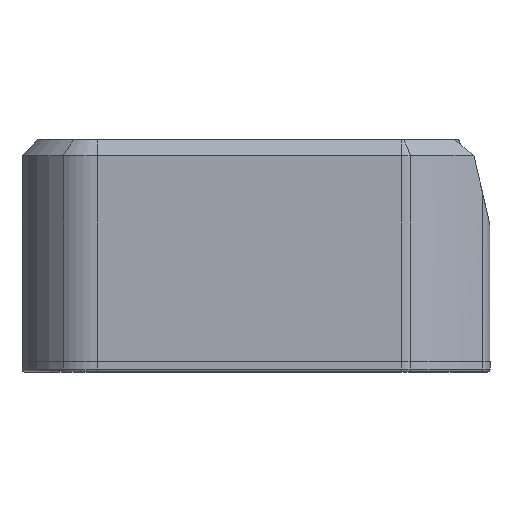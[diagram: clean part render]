
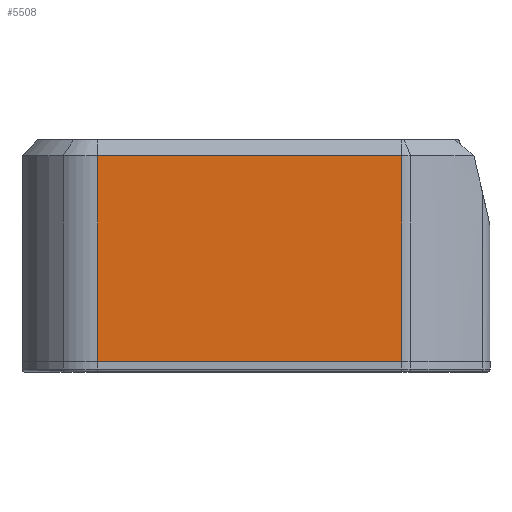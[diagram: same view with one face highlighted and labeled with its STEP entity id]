
A CAD part, left-side view. The second image highlights one B-rep face of the part: STEP entity #5508.
In plain terms, the highlighted planar face has unit normal (-1, 0, 0).
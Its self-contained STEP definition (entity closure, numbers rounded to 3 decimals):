
#1070=ORIENTED_EDGE('',*,*,#2173,.T.);
#1071=ORIENTED_EDGE('',*,*,#2112,.T.);
#1072=ORIENTED_EDGE('',*,*,#2138,.T.);
#1073=ORIENTED_EDGE('',*,*,#2206,.F.);
#2112=EDGE_CURVE('',#2882,#2874,#3527,.T.);
#2138=EDGE_CURVE('',#2874,#2899,#3541,.T.);
#2173=EDGE_CURVE('',#2928,#2882,#3571,.T.);
#2206=EDGE_CURVE('',#2928,#2899,#3600,.T.);
#2874=VERTEX_POINT('',#8610);
#2882=VERTEX_POINT('',#8628);
#2899=VERTEX_POINT('',#8684);
#2928=VERTEX_POINT('',#8758);
#3527=LINE('',#8632,#4159);
#3541=LINE('',#8683,#4173);
#3571=LINE('',#8757,#4203);
#3600=LINE('',#8824,#4232);
#4159=VECTOR('',#6957,1000.);
#4173=VECTOR('',#7013,1000.);
#4203=VECTOR('',#7073,1000.);
#4232=VECTOR('',#7144,1000.);
#4718=EDGE_LOOP('',(#1070,#1071,#1072,#1073));
#5026=FACE_BOUND('',#4718,.T.);
#5270=PLANE('',#6042);
#5508=ADVANCED_FACE('',(#5026),#5270,.F.);
#6042=AXIS2_PLACEMENT_3D('',#8823,#7142,#7143);
#6957=DIRECTION('',(0.,1.,0.));
#7013=DIRECTION('',(0.,0.,-1.));
#7073=DIRECTION('',(0.,0.,1.));
#7142=DIRECTION('',(1.,0.,0.));
#7143=DIRECTION('',(0.,0.,-1.));
#7144=DIRECTION('',(0.,1.,0.));
#8610=CARTESIAN_POINT('',(-21.5,14.371,20.4));
#8628=CARTESIAN_POINT('',(-21.5,-14.287,20.4));
#8632=CARTESIAN_POINT('',(-21.5,14.371,20.4));
#8683=CARTESIAN_POINT('',(-21.5,14.371,55.48));
#8684=CARTESIAN_POINT('',(-21.5,14.371,1.));
#8757=CARTESIAN_POINT('',(-21.5,-14.287,21.8));
#8758=CARTESIAN_POINT('',(-21.5,-14.287,1.));
#8823=CARTESIAN_POINT('',(-21.5,21.5,21.8));
#8824=CARTESIAN_POINT('',(-21.5,21.5,1.));
